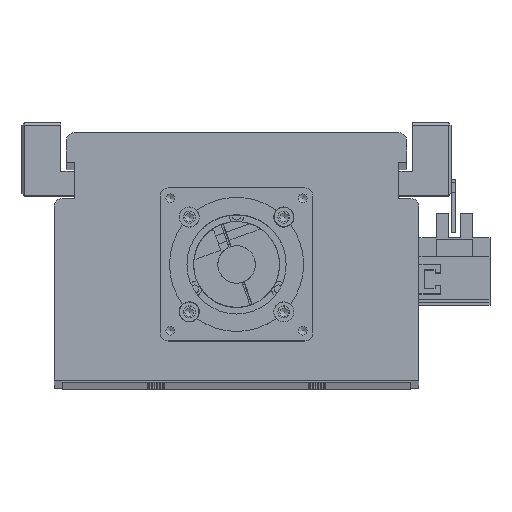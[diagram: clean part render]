
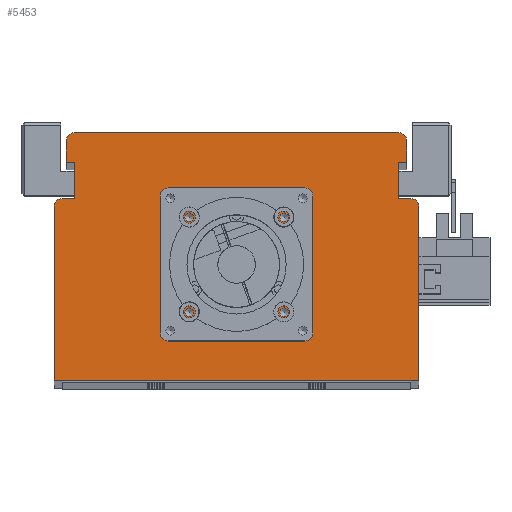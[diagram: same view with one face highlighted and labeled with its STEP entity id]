
A CAD part, top view. The second image highlights one B-rep face of the part: STEP entity #5453.
In plain terms, the highlighted planar face has unit normal (0, 0, 1).
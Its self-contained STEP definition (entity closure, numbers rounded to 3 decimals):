
#4011=CARTESIAN_POINT('',(19.321,61.5,1545.0));
#4012=VERTEX_POINT('',#4011);
#4013=CARTESIAN_POINT('',(17.7,61.5,1545.0));
#4014=DIRECTION('',(0.0,0.0,-1.0));
#4015=DIRECTION('',(1.0,0.0,0.0));
#4016=AXIS2_PLACEMENT_3D('',#4013,#4014,#4015);
#4017=CIRCLE('',#4016,1.621);
#4018=EDGE_CURVE('',#4012,#4012,#4017,.T.);
#4090=CARTESIAN_POINT('',(19.321,26.1,1545.0));
#4091=VERTEX_POINT('',#4090);
#4092=CARTESIAN_POINT('',(17.7,26.1,1545.0));
#4093=DIRECTION('',(0.0,0.0,-1.0));
#4094=DIRECTION('',(1.0,0.0,0.0));
#4095=AXIS2_PLACEMENT_3D('',#4092,#4093,#4094);
#4096=CIRCLE('',#4095,1.621);
#4097=EDGE_CURVE('',#4091,#4091,#4096,.T.);
#4169=CARTESIAN_POINT('',(-16.079,26.1,1545.0));
#4170=VERTEX_POINT('',#4169);
#4171=CARTESIAN_POINT('',(-17.7,26.1,1545.0));
#4172=DIRECTION('',(0.0,0.0,-1.0));
#4173=DIRECTION('',(1.0,0.0,0.0));
#4174=AXIS2_PLACEMENT_3D('',#4171,#4172,#4173);
#4175=CIRCLE('',#4174,1.621);
#4176=EDGE_CURVE('',#4170,#4170,#4175,.T.);
#4248=CARTESIAN_POINT('',(-16.079,61.5,1545.0));
#4249=VERTEX_POINT('',#4248);
#4250=CARTESIAN_POINT('',(-17.7,61.5,1545.0));
#4251=DIRECTION('',(0.0,0.0,-1.0));
#4252=DIRECTION('',(1.0,0.0,0.0));
#4253=AXIS2_PLACEMENT_3D('',#4250,#4251,#4252);
#4254=CIRCLE('',#4253,1.621);
#4255=EDGE_CURVE('',#4249,#4249,#4254,.T.);
#4289=CARTESIAN_POINT('',(26.5,43.8,1545.0));
#4290=VERTEX_POINT('',#4289);
#4291=CARTESIAN_POINT('',(24.5,43.8,1545.0));
#4292=DIRECTION('',(0.0,0.0,-1.0));
#4293=DIRECTION('',(1.0,0.0,0.0));
#4294=AXIS2_PLACEMENT_3D('',#4291,#4292,#4293);
#4295=CIRCLE('',#4294,2.0);
#4296=EDGE_CURVE('',#4290,#4290,#4295,.T.);
#4338=CARTESIAN_POINT('',(-22.5,43.8,1545.0));
#4339=VERTEX_POINT('',#4338);
#4340=CARTESIAN_POINT('',(-24.5,43.8,1545.0));
#4341=DIRECTION('',(0.0,0.0,-1.0));
#4342=DIRECTION('',(1.0,0.0,0.0));
#4343=AXIS2_PLACEMENT_3D('',#4340,#4341,#4342);
#4344=CIRCLE('',#4343,2.0);
#4345=EDGE_CURVE('',#4339,#4339,#4344,.T.);
#5269=CARTESIAN_POINT('',(21.05,43.8,1545.0));
#5270=VERTEX_POINT('',#5269);
#5271=CARTESIAN_POINT('',(0.0,43.8,1545.0));
#5272=DIRECTION('',(0.0,0.0,-1.0));
#5273=DIRECTION('',(-1.0,0.0,0.0));
#5274=AXIS2_PLACEMENT_3D('',#5271,#5272,#5273);
#5275=CIRCLE('',#5274,21.05);
#5276=EDGE_CURVE('',#5270,#5270,#5275,.T.);
#5293=CARTESIAN_POINT('',(0.,29.533,1545.0));
#5294=DIRECTION('',(0.0,0.0,1.0));
#5295=DIRECTION('',(1.0,0.0,0.0));
#5296=AXIS2_PLACEMENT_3D('',#5293,#5294,#5295);
#5297=PLANE('',#5296);
#5298=CARTESIAN_POINT('',(-65.,68.5,1545.0));
#5299=VERTEX_POINT('',#5298);
#5300=CARTESIAN_POINT('',(-60.5,68.5,1545.));
#5301=VERTEX_POINT('',#5300);
#5302=CARTESIAN_POINT('',(-65.,68.5,1545.0));
#5303=DIRECTION('',(1.0,0.0,0.0));
#5304=VECTOR('',#5303,4.5);
#5305=LINE('',#5302,#5304);
#5306=EDGE_CURVE('',#5299,#5301,#5305,.T.);
#5307=ORIENTED_EDGE('',*,*,#5306,.F.);
#5308=CARTESIAN_POINT('',(-68.,65.5,1545.0));
#5309=VERTEX_POINT('',#5308);
#5310=CARTESIAN_POINT('',(-65.,65.5,1545.0));
#5311=DIRECTION('',(0.0,0.0,-1.0));
#5312=DIRECTION('',(0.0,1.0,0.0));
#5313=AXIS2_PLACEMENT_3D('',#5310,#5311,#5312);
#5314=CIRCLE('',#5313,3.);
#5315=EDGE_CURVE('',#5309,#5299,#5314,.T.);
#5316=ORIENTED_EDGE('',*,*,#5315,.F.);
#5317=CARTESIAN_POINT('',(-68.0,0.5,1545.0));
#5318=VERTEX_POINT('',#5317);
#5319=CARTESIAN_POINT('',(-68.0,0.5,1545.0));
#5320=DIRECTION('',(0.0,1.0,0.0));
#5321=VECTOR('',#5320,65.0);
#5322=LINE('',#5319,#5321);
#5323=EDGE_CURVE('',#5318,#5309,#5322,.T.);
#5324=ORIENTED_EDGE('',*,*,#5323,.F.);
#5325=CARTESIAN_POINT('',(68.0,0.5,1545.0));
#5326=VERTEX_POINT('',#5325);
#5327=CARTESIAN_POINT('',(68.0,0.5,1545.0));
#5328=DIRECTION('',(-1.0,0.0,0.0));
#5329=VECTOR('',#5328,136.0);
#5330=LINE('',#5327,#5329);
#5331=EDGE_CURVE('',#5326,#5318,#5330,.T.);
#5332=ORIENTED_EDGE('',*,*,#5331,.F.);
#5333=CARTESIAN_POINT('',(68.0,65.5,1545.0));
#5334=VERTEX_POINT('',#5333);
#5335=CARTESIAN_POINT('',(68.0,65.5,1545.0));
#5336=DIRECTION('',(0.0,-1.0,0.0));
#5337=VECTOR('',#5336,65.0);
#5338=LINE('',#5335,#5337);
#5339=EDGE_CURVE('',#5334,#5326,#5338,.T.);
#5340=ORIENTED_EDGE('',*,*,#5339,.F.);
#5341=CARTESIAN_POINT('',(65.,68.5,1545.0));
#5342=VERTEX_POINT('',#5341);
#5343=CARTESIAN_POINT('',(65.,65.5,1545.0));
#5344=DIRECTION('',(0.0,0.0,-1.0));
#5345=DIRECTION('',(1.0,0.0,0.0));
#5346=AXIS2_PLACEMENT_3D('',#5343,#5344,#5345);
#5347=CIRCLE('',#5346,3.);
#5348=EDGE_CURVE('',#5342,#5334,#5347,.T.);
#5349=ORIENTED_EDGE('',*,*,#5348,.F.);
#5350=CARTESIAN_POINT('',(60.5,68.5,1545.));
#5351=VERTEX_POINT('',#5350);
#5352=CARTESIAN_POINT('',(60.5,68.5,1545.));
#5353=DIRECTION('',(1.0,0.0,0.0));
#5354=VECTOR('',#5353,4.5);
#5355=LINE('',#5352,#5354);
#5356=EDGE_CURVE('',#5351,#5342,#5355,.T.);
#5357=ORIENTED_EDGE('',*,*,#5356,.F.);
#5358=CARTESIAN_POINT('',(60.5,82.,1545.0));
#5359=VERTEX_POINT('',#5358);
#5360=CARTESIAN_POINT('',(60.5,82.,1545.0));
#5361=DIRECTION('',(0.0,-1.0,0.0));
#5362=VECTOR('',#5361,13.5);
#5363=LINE('',#5360,#5362);
#5364=EDGE_CURVE('',#5359,#5351,#5363,.T.);
#5365=ORIENTED_EDGE('',*,*,#5364,.F.);
#5366=CARTESIAN_POINT('',(63.5,82.,1545.0));
#5367=VERTEX_POINT('',#5366);
#5368=CARTESIAN_POINT('',(63.5,82.,1545.0));
#5369=DIRECTION('',(-1.0,0.0,0.0));
#5370=VECTOR('',#5369,3.0);
#5371=LINE('',#5368,#5370);
#5372=EDGE_CURVE('',#5367,#5359,#5371,.T.);
#5373=ORIENTED_EDGE('',*,*,#5372,.F.);
#5374=CARTESIAN_POINT('',(63.5,90.0,1545.0));
#5375=VERTEX_POINT('',#5374);
#5376=CARTESIAN_POINT('',(63.5,90.0,1545.0));
#5377=DIRECTION('',(0.0,-1.0,0.0));
#5378=VECTOR('',#5377,8.);
#5379=LINE('',#5376,#5378);
#5380=EDGE_CURVE('',#5375,#5367,#5379,.T.);
#5381=ORIENTED_EDGE('',*,*,#5380,.F.);
#5382=CARTESIAN_POINT('',(60.5,93.,1545.0));
#5383=VERTEX_POINT('',#5382);
#5384=CARTESIAN_POINT('',(60.5,90.0,1545.0));
#5385=DIRECTION('',(0.0,0.0,-1.0));
#5386=DIRECTION('',(1.0,0.0,0.0));
#5387=AXIS2_PLACEMENT_3D('',#5384,#5385,#5386);
#5388=CIRCLE('',#5387,3.);
#5389=EDGE_CURVE('',#5383,#5375,#5388,.T.);
#5390=ORIENTED_EDGE('',*,*,#5389,.F.);
#5391=CARTESIAN_POINT('',(-60.5,93.0,1545.0));
#5392=VERTEX_POINT('',#5391);
#5393=CARTESIAN_POINT('',(-60.5,93.0,1545.0));
#5394=DIRECTION('',(1.0,0.0,0.0));
#5395=VECTOR('',#5394,121.0);
#5396=LINE('',#5393,#5395);
#5397=EDGE_CURVE('',#5392,#5383,#5396,.T.);
#5398=ORIENTED_EDGE('',*,*,#5397,.F.);
#5399=CARTESIAN_POINT('',(-63.5,90.0,1545.0));
#5400=VERTEX_POINT('',#5399);
#5401=CARTESIAN_POINT('',(-60.5,90.0,1545.0));
#5402=DIRECTION('',(0.0,0.0,-1.0));
#5403=DIRECTION('',(0.0,1.0,0.0));
#5404=AXIS2_PLACEMENT_3D('',#5401,#5402,#5403);
#5405=CIRCLE('',#5404,3.);
#5406=EDGE_CURVE('',#5400,#5392,#5405,.T.);
#5407=ORIENTED_EDGE('',*,*,#5406,.F.);
#5408=CARTESIAN_POINT('',(-63.5,82.,1545.0));
#5409=VERTEX_POINT('',#5408);
#5410=CARTESIAN_POINT('',(-63.5,82.,1545.0));
#5411=DIRECTION('',(0.0,1.0,0.0));
#5412=VECTOR('',#5411,8.);
#5413=LINE('',#5410,#5412);
#5414=EDGE_CURVE('',#5409,#5400,#5413,.T.);
#5415=ORIENTED_EDGE('',*,*,#5414,.F.);
#5416=CARTESIAN_POINT('',(-60.5,82.,1545.0));
#5417=VERTEX_POINT('',#5416);
#5418=CARTESIAN_POINT('',(-60.5,82.,1545.0));
#5419=DIRECTION('',(-1.0,0.0,0.0));
#5420=VECTOR('',#5419,3.);
#5421=LINE('',#5418,#5420);
#5422=EDGE_CURVE('',#5417,#5409,#5421,.T.);
#5423=ORIENTED_EDGE('',*,*,#5422,.F.);
#5424=CARTESIAN_POINT('',(-60.5,68.5,1545.));
#5425=DIRECTION('',(0.0,1.0,0.0));
#5426=VECTOR('',#5425,13.5);
#5427=LINE('',#5424,#5426);
#5428=EDGE_CURVE('',#5301,#5417,#5427,.T.);
#5429=ORIENTED_EDGE('',*,*,#5428,.F.);
#5430=EDGE_LOOP('',(#5307,#5316,#5324,#5332,#5340,#5349,#5357,#5365,#5373,#5381,#5390,#5398,#5407,#5415,#5423,#5429));
#5431=FACE_OUTER_BOUND('',#5430,.T.);
#5432=ORIENTED_EDGE('',*,*,#4018,.T.);
#5433=EDGE_LOOP('',(#5432));
#5434=FACE_BOUND('',#5433,.T.);
#5435=ORIENTED_EDGE('',*,*,#4097,.T.);
#5436=EDGE_LOOP('',(#5435));
#5437=FACE_BOUND('',#5436,.T.);
#5438=ORIENTED_EDGE('',*,*,#4176,.T.);
#5439=EDGE_LOOP('',(#5438));
#5440=FACE_BOUND('',#5439,.T.);
#5441=ORIENTED_EDGE('',*,*,#4255,.T.);
#5442=EDGE_LOOP('',(#5441));
#5443=FACE_BOUND('',#5442,.T.);
#5444=ORIENTED_EDGE('',*,*,#4296,.T.);
#5445=EDGE_LOOP('',(#5444));
#5446=FACE_BOUND('',#5445,.T.);
#5447=ORIENTED_EDGE('',*,*,#4345,.T.);
#5448=EDGE_LOOP('',(#5447));
#5449=FACE_BOUND('',#5448,.T.);
#5450=ORIENTED_EDGE('',*,*,#5276,.T.);
#5451=EDGE_LOOP('',(#5450));
#5452=FACE_BOUND('',#5451,.T.);
#5453=ADVANCED_FACE('',(#5431,#5434,#5437,#5440,#5443,#5446,#5449,#5452),#5297,.T.);
